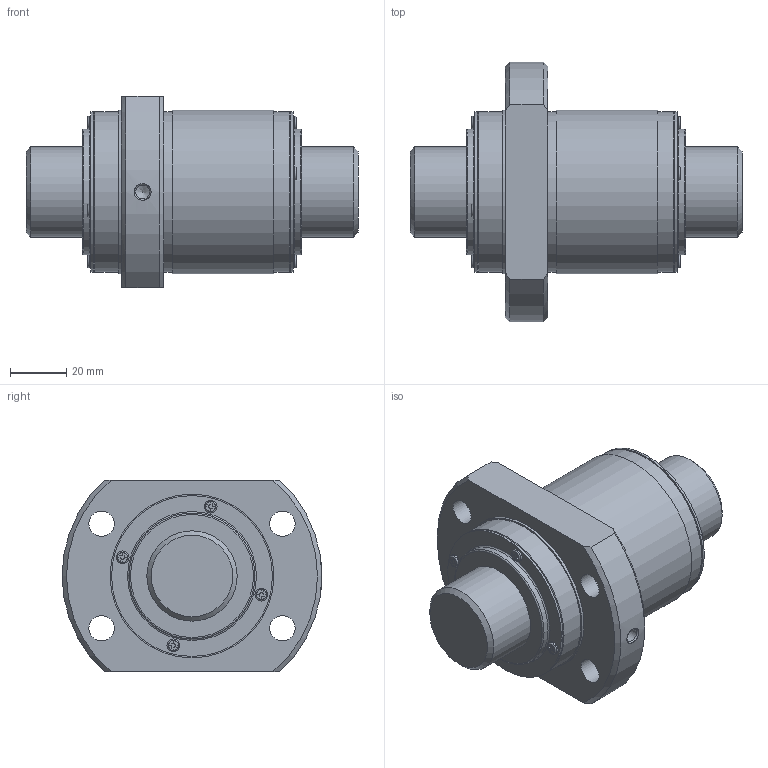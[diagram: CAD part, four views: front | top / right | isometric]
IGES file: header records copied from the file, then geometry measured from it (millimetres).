
Start section: Data from Parasolid IGES Translator 26.0.171, Copyright(c) 2006 Siemens PLM Software. All Rights Reserved.
Global section: file name: BLK3232-3.6ZZ+117.6LC7T_000.igs; native system: By Siemens PLM Incorporated; preprocessor: XPlus GENERIC/IGES 26.0.171; author: Noname; organization: Noname; date: 20250611.062935; units: millimetre
Bounding box: 117.6 x 92 x 68 mm (x, y, z)
Surface area: 47427.3 mm2 (no closed solid volume)
Topology: 0 solids, 0 shells, 215 faces, 1089 edges, 1018 vertices
Faces by surface type: extrusion 127, revolution 88
